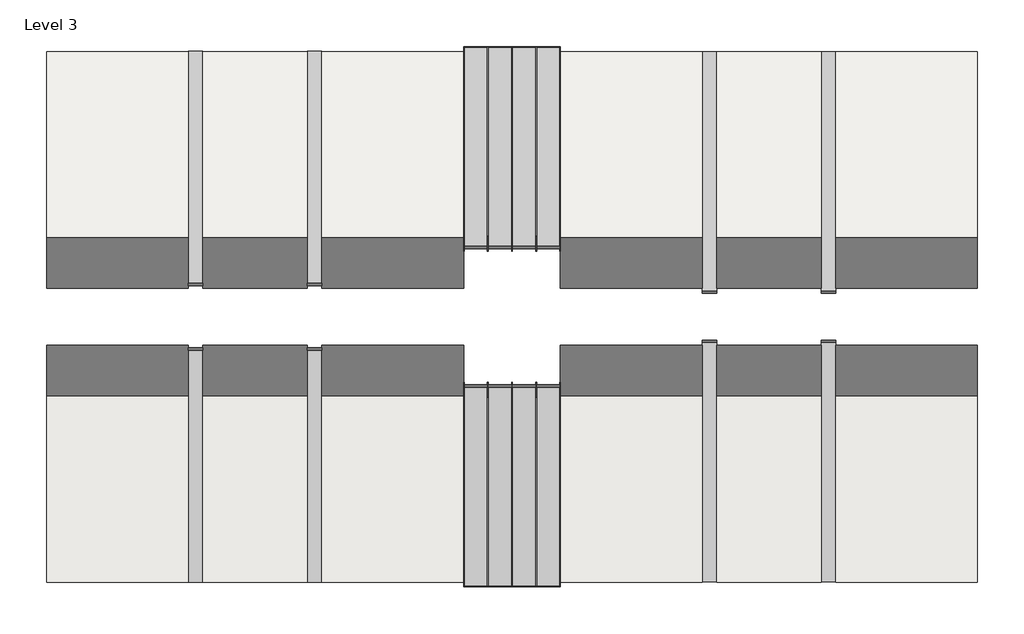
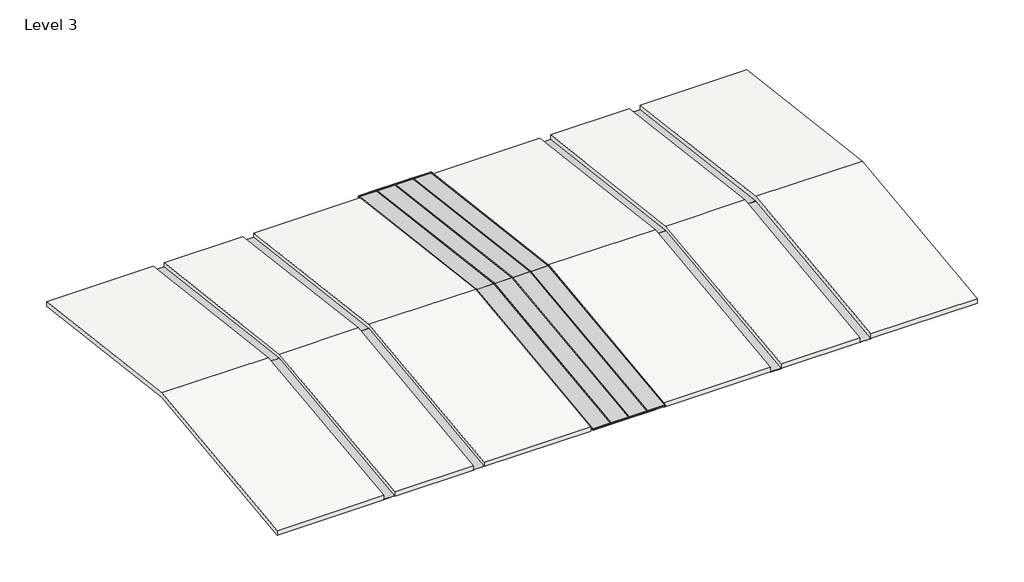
# One storey: 18 members, 16 plates, 6 roofs.
"""IFC4 building model written with IfcOpenShell, lengths in millimetres."""

from ifc_helpers import new_model, si_unit, frame, origin, place, context, project, spatial, polyline, outline, extrude, transform, mapped, element, save
from components import rectangular_mullion_50x150mm_aa47fe12, rectangular_mullion_50x150mm_e1845f1f, rectangular_mullion_50x150mm_9bf3cd82, rectangular_mullion_50x150mm_6b8186ba, system_panel_glazed_f909c4d5, system_panel_glazed_12509dcc, system_panel_glazed_23f30888

model = new_model("IFC4")

# Units and contexts
model_context = context("Model", 3, world=origin())
ifc_project = project(units=[si_unit("LENGTHUNIT", "METRE", prefix="MILLI")], contexts=[model_context])

# Site, building, storey
site = spatial("IfcSite", under=ifc_project)
building = spatial("IfcBuilding", under=site)
storey = spatial("IfcBuildingStorey", under=building, Name="Level 3", Elevation=11500.0)

# Members
placement = place(None, origin())
rectangular_mullion_50x150mm_shape = rectangular_mullion_50x150mm_aa47fe12(model_context)
element("IfcMember", 1, ObjectType="Rectangular Mullion : 50x150mm", at=placement, inside=storey, context=model_context, shape_type="MappedRepresentation", body=[
    mapped(rectangular_mullion_50x150mm_shape, transform((-49230.3056755, -36205.9199596, 10700.0), x_axis=(0.0, -0.9925461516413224, -0.12186934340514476), y_axis=(0.0, 0.12186934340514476, -0.9925461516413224), z_axis=(1.0, 0.0, 0.0))),
])
element("IfcMember", 2, ObjectType="Rectangular Mullion : 50x150mm", at=placement, inside=storey, context=model_context, shape_type="MappedRepresentation", body=[
    mapped(rectangular_mullion_50x150mm_shape, transform((-51230.3056755, -36205.9199596, 10700.0), x_axis=(0.0, -0.9925461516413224, -0.12186934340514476), y_axis=(0.0, 0.12186934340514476, -0.9925461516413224), z_axis=(1.0, 0.0, 0.0))),
])
element("IfcMember", 3, ObjectType="Rectangular Mullion : 50x150mm", at=placement, inside=storey, context=model_context, shape_type="MappedRepresentation", body=[
    mapped(rectangular_mullion_50x150mm_shape, transform((-51230.3056755, 8394.0800404, 10700.0), x_axis=(0.0, 0.9925461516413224, -0.12186934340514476), y_axis=(0.0, -0.12186934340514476, -0.9925461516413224), z_axis=(-1.0, 0.0, 0.0))),
])
element("IfcMember", 4, ObjectType="Rectangular Mullion : 50x150mm", at=placement, inside=storey, context=model_context, shape_type="MappedRepresentation", body=[
    mapped(rectangular_mullion_50x150mm_shape, transform((-53230.3056755, 8394.0800404, 10700.0), x_axis=(0.0, 0.9925461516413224, -0.12186934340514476), y_axis=(0.0, -0.12186934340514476, -0.9925461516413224), z_axis=(-1.0, 0.0, 0.0))),
])
rectangular_mullion_50x150mm_2_shape = rectangular_mullion_50x150mm_e1845f1f(model_context)
element("IfcMember", 5, ObjectType="Rectangular Mullion : 50x150mm", at=placement, inside=storey, context=model_context, shape_type="MappedRepresentation", body=[
    mapped(rectangular_mullion_50x150mm_2_shape, transform((-53230.3056755, -36205.9199596, 10700.0), x_axis=(0.0, -0.9925461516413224, -0.12186934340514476), y_axis=(0.0, 0.12186934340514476, -0.9925461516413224), z_axis=(1.0, 0.0, 0.0))),
])
element("IfcMember", 6, ObjectType="Rectangular Mullion : 50x150mm", at=placement, inside=storey, context=model_context, shape_type="MappedRepresentation", body=[
    mapped(rectangular_mullion_50x150mm_2_shape, transform((-49230.3056755, 8394.0800404, 10700.0), x_axis=(0.0, 0.9925461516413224, -0.12186934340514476), y_axis=(0.0, -0.12186934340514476, -0.9925461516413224), z_axis=(-1.0, 0.0, 0.0))),
])
element("IfcMember", 7, ObjectType="Rectangular Mullion : 50x150mm", at=placement, inside=storey, context=model_context, shape_type="MappedRepresentation", body=[
    mapped(rectangular_mullion_50x150mm_2_shape, transform((-47280.3056755, -36205.9199596, 10700.0), x_axis=(0.0, -0.9925461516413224, -0.12186934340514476), y_axis=(0.0, 0.12186934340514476, -0.9925461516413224), z_axis=(1.0, 0.0, 0.0))),
])
element("IfcMember", 8, ObjectType="Rectangular Mullion : 50x150mm", at=placement, inside=storey, context=model_context, shape_type="MappedRepresentation", body=[
    mapped(rectangular_mullion_50x150mm_2_shape, transform((-55180.3056755, 8394.0800404, 10700.0), x_axis=(0.0, 0.9925461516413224, -0.12186934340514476), y_axis=(0.0, -0.12186934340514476, -0.9925461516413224), z_axis=(-1.0, 0.0, 0.0))),
])
rectangular_mullion_50x150mm_3_shape = rectangular_mullion_50x150mm_9bf3cd82(model_context)
element("IfcMember", 9, ObjectType="Rectangular Mullion : 50x150mm", at=placement, inside=storey, context=model_context, shape_type="MappedRepresentation", body=[
    mapped(rectangular_mullion_50x150mm_3_shape, transform((-49230.3056755, -13905.9199596, 13438.0957081), x_axis=(1.0, 0.0, 0.0), y_axis=(0.0, 0.12186934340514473, -0.9925461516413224), z_axis=(0.0, 0.9925461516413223, 0.12186934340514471))),
])
element("IfcMember", 10, ObjectType="Rectangular Mullion : 50x150mm", at=placement, inside=storey, context=model_context, shape_type="MappedRepresentation", body=[
    mapped(rectangular_mullion_50x150mm_3_shape, transform((-51230.3056755, -13905.9199596, 13438.0957081), x_axis=(1.0, 0.0, 0.0), y_axis=(0.0, 0.12186934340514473, -0.9925461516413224), z_axis=(0.0, 0.9925461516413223, 0.12186934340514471))),
])
element("IfcMember", 11, ObjectType="Rectangular Mullion : 50x150mm", at=placement, inside=storey, context=model_context, shape_type="MappedRepresentation", body=[
    mapped(rectangular_mullion_50x150mm_3_shape, transform((-53230.3056755, -13905.9199596, 13438.0957081), x_axis=(1.0, 0.0, 0.0), y_axis=(0.0, 0.12186934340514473, -0.9925461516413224), z_axis=(0.0, 0.9925461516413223, 0.12186934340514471))),
])
element("IfcMember", 12, ObjectType="Rectangular Mullion : 50x150mm", at=placement, inside=storey, context=model_context, shape_type="MappedRepresentation", body=[
    mapped(rectangular_mullion_50x150mm_3_shape, transform((-53230.3056755, -13905.9199596, 13438.0957081), x_axis=(-1.0, 0.0, 0.0), y_axis=(0.0, -0.12186934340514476, -0.9925461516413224), z_axis=(0.0, -0.9925461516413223, 0.12186934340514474))),
])
element("IfcMember", 13, ObjectType="Rectangular Mullion : 50x150mm", at=placement, inside=storey, context=model_context, shape_type="MappedRepresentation", body=[
    mapped(rectangular_mullion_50x150mm_3_shape, transform((-51230.3056755, -13905.9199596, 13438.0957081), x_axis=(-1.0, 0.0, 0.0), y_axis=(0.0, -0.12186934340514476, -0.9925461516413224), z_axis=(0.0, -0.9925461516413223, 0.12186934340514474))),
])
element("IfcMember", 14, ObjectType="Rectangular Mullion : 50x150mm", at=placement, inside=storey, context=model_context, shape_type="MappedRepresentation", body=[
    mapped(rectangular_mullion_50x150mm_3_shape, transform((-49230.3056755, -13905.9199596, 13438.0957081), x_axis=(-1.0, 0.0, 0.0), y_axis=(0.0, -0.12186934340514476, -0.9925461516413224), z_axis=(0.0, -0.9925461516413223, 0.12186934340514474))),
])
rectangular_mullion_50x150mm_4_shape = rectangular_mullion_50x150mm_6b8186ba(model_context)
element("IfcMember", 15, ObjectType="Rectangular Mullion : 50x150mm", at=placement, inside=storey, context=model_context, shape_type="MappedRepresentation", body=[
    mapped(rectangular_mullion_50x150mm_4_shape, transform((-47230.3056755, -13905.9199596, 13438.0957081), x_axis=(1.0, 0.0, 0.0), y_axis=(0.0, 0.12186934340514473, -0.9925461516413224), z_axis=(0.0, 0.9925461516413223, 0.12186934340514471))),
])
element("IfcMember", 16, ObjectType="Rectangular Mullion : 50x150mm", at=placement, inside=storey, context=model_context, shape_type="MappedRepresentation", body=[
    mapped(rectangular_mullion_50x150mm_4_shape, transform((-55230.3056755, -13905.9199596, 13438.0957081), x_axis=(-1.0, 0.0, 0.0), y_axis=(0.0, -0.12186934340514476, -0.9925461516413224), z_axis=(0.0, -0.9925461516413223, 0.12186934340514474))),
])
element("IfcMember", 17, ObjectType="Rectangular Mullion : 50x150mm", at=placement, inside=storey, context=model_context, shape_type="MappedRepresentation", body=[
    mapped(rectangular_mullion_50x150mm_4_shape, transform((-47230.3056755, 8394.0800404, 10700.0), x_axis=(1.0, 0.0, 0.0), y_axis=(0.0, -0.12186934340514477, -0.9925461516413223), z_axis=(0.0, 0.9925461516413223, -0.12186934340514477))),
])
element("IfcMember", 18, ObjectType="Rectangular Mullion : 50x150mm", at=placement, inside=storey, context=model_context, shape_type="MappedRepresentation", body=[
    mapped(rectangular_mullion_50x150mm_4_shape, transform((-55230.3056755, -36205.9199596, 10700.0), x_axis=(-1.0, 0.0, 0.0), y_axis=(0.0, 0.12186934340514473, -0.9925461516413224), z_axis=(0.0, -0.9925461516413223, -0.12186934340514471))),
])

# Plates
system_panel_glazed_shape = system_panel_glazed_f909c4d5(model_context)
element("IfcPlate", 19, ObjectType="System Panel : Glazed", at=placement, inside=storey, context=model_context, shape_type="MappedRepresentation", body=[
    mapped(system_panel_glazed_shape, transform((-34935.2556755, -35805.9199596, 10300.0), x_axis=(1.0, 0.0, 0.0), y_axis=(0.0, 0.12186934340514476, -0.9925461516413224), z_axis=(0.0, 0.9925461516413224, 0.12186934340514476))),
])
element("IfcPlate", 20, ObjectType="System Panel : Glazed", at=placement, inside=storey, context=model_context, shape_type="MappedRepresentation", body=[
    mapped(system_panel_glazed_shape, transform((-34935.2556755, 7994.0800404, 10300.0), x_axis=(-1.0, 0.0, 0.0), y_axis=(0.0, -0.12186934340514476, -0.9925461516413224), z_axis=(0.0, -0.9925461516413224, 0.12186934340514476))),
])
element("IfcPlate", 21, ObjectType="System Panel : Glazed", at=placement, inside=storey, context=model_context, shape_type="MappedRepresentation", body=[
    mapped(system_panel_glazed_shape, transform((-25100.7705062, -35805.9199596, 10300.0), x_axis=(1.0, 0.0, 0.0), y_axis=(0.0, 0.12186934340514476, -0.9925461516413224), z_axis=(0.0, 0.9925461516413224, 0.12186934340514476))),
])
element("IfcPlate", 22, ObjectType="System Panel : Glazed", at=placement, inside=storey, context=model_context, shape_type="MappedRepresentation", body=[
    mapped(system_panel_glazed_shape, transform((-25100.7705062, 7994.0800404, 10300.0), x_axis=(-1.0, 0.0, 0.0), y_axis=(0.0, -0.12186934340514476, -0.9925461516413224), z_axis=(0.0, -0.9925461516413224, 0.12186934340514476))),
])
element("IfcPlate", 23, ObjectType="System Panel : Glazed", at=placement, inside=storey, context=model_context, shape_type="MappedRepresentation", body=[
    mapped(system_panel_glazed_shape, transform((-67525.3556755, -35805.9199596, 10300.0), x_axis=(-1.0, 0.0, 0.0), y_axis=(0.0, -0.12186934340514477, 0.9925461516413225), z_axis=(0.0, 0.9925461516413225, 0.12186934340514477))),
])
element("IfcPlate", 24, ObjectType="System Panel : Glazed", at=placement, inside=storey, context=model_context, shape_type="MappedRepresentation", body=[
    mapped(system_panel_glazed_shape, transform((-67525.3556755, 7994.0800404, 10300.0), x_axis=(1.0, 0.0, 0.0), y_axis=(0.0, 0.12186934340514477, 0.9925461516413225), z_axis=(0.0, -0.9925461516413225, 0.12186934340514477))),
])
element("IfcPlate", 25, ObjectType="System Panel : Glazed", at=placement, inside=storey, context=model_context, shape_type="MappedRepresentation", body=[
    mapped(system_panel_glazed_shape, transform((-77359.8408447, -35805.9199596, 10300.0), x_axis=(-1.0, 0.0, 0.0), y_axis=(0.0, -0.12186934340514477, 0.9925461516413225), z_axis=(0.0, 0.9925461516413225, 0.12186934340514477))),
])
element("IfcPlate", 26, ObjectType="System Panel : Glazed", at=placement, inside=storey, context=model_context, shape_type="MappedRepresentation", body=[
    mapped(system_panel_glazed_shape, transform((-77359.8408447, 7994.0800404, 10300.0), x_axis=(1.0, 0.0, 0.0), y_axis=(0.0, 0.12186934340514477, 0.9925461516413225), z_axis=(0.0, -0.9925461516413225, 0.12186934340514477))),
])
system_panel_glazed_2_shape = system_panel_glazed_12509dcc(model_context)
element("IfcPlate", 27, ObjectType="System Panel : Glazed", at=placement, inside=storey, context=model_context, shape_type="MappedRepresentation", body=[
    mapped(system_panel_glazed_2_shape, transform((-54217.8056755, -36156.292652, 10706.0934672), x_axis=(1.0, 0.0, 0.0), y_axis=(0.0, 0.12186934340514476, -0.9925461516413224), z_axis=(0.0, 0.9925461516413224, 0.12186934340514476))),
])
element("IfcPlate", 28, ObjectType="System Panel : Glazed", at=placement, inside=storey, context=model_context, shape_type="MappedRepresentation", body=[
    mapped(system_panel_glazed_2_shape, transform((-48242.8056755, 8344.4527328, 10706.0934672), x_axis=(-1.0, 0.0, 0.0), y_axis=(0.0, -0.12186934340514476, -0.9925461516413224), z_axis=(0.0, -0.9925461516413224, 0.12186934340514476))),
])
element("IfcPlate", 29, ObjectType="System Panel : Glazed", at=placement, inside=storey, context=model_context, shape_type="MappedRepresentation", body=[
    mapped(system_panel_glazed_2_shape, transform((-48242.8056755, -36156.292652, 10706.0934672), x_axis=(1.0, 0.0, 0.0), y_axis=(0.0, 0.12186934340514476, -0.9925461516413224), z_axis=(0.0, 0.9925461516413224, 0.12186934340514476))),
])
element("IfcPlate", 30, ObjectType="System Panel : Glazed", at=placement, inside=storey, context=model_context, shape_type="MappedRepresentation", body=[
    mapped(system_panel_glazed_2_shape, transform((-54217.8056755, 8344.4527328, 10706.0934672), x_axis=(-1.0, 0.0, 0.0), y_axis=(0.0, -0.12186934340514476, -0.9925461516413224), z_axis=(0.0, -0.9925461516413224, 0.12186934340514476))),
])
system_panel_glazed_3_shape = system_panel_glazed_23f30888(model_context)
element("IfcPlate", 31, ObjectType="System Panel : Glazed", at=placement, inside=storey, context=model_context, shape_type="MappedRepresentation", body=[
    mapped(system_panel_glazed_3_shape, transform((-50230.3056755, -36156.292652, 10706.0934672), x_axis=(1.0, 0.0, 0.0), y_axis=(0.0, 0.12186934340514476, -0.9925461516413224), z_axis=(0.0, 0.9925461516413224, 0.12186934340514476))),
])
element("IfcPlate", 32, ObjectType="System Panel : Glazed", at=placement, inside=storey, context=model_context, shape_type="MappedRepresentation", body=[
    mapped(system_panel_glazed_3_shape, transform((-52230.3056755, -36156.292652, 10706.0934672), x_axis=(1.0, 0.0, 0.0), y_axis=(0.0, 0.12186934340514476, -0.9925461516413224), z_axis=(0.0, 0.9925461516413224, 0.12186934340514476))),
])
element("IfcPlate", 33, ObjectType="System Panel : Glazed", at=placement, inside=storey, context=model_context, shape_type="MappedRepresentation", body=[
    mapped(system_panel_glazed_3_shape, transform((-52230.3056755, 8344.4527328, 10706.0934672), x_axis=(-1.0, 0.0, 0.0), y_axis=(0.0, -0.12186934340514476, -0.9925461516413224), z_axis=(0.0, -0.9925461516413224, 0.12186934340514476))),
])
element("IfcPlate", 34, ObjectType="System Panel : Glazed", at=placement, inside=storey, context=model_context, shape_type="MappedRepresentation", body=[
    mapped(system_panel_glazed_3_shape, transform((-50230.3056755, 8344.4527328, 10706.0934672), x_axis=(-1.0, 0.0, 0.0), y_axis=(0.0, -0.12186934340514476, -0.9925461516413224), z_axis=(0.0, -0.9925461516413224, 0.12186934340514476))),
])

# Roofs
element("IfcRoof", 35, ObjectType="Roof_Pitched-50SS-220Ins-20MPan-225Purl", at=placement, inside=storey, context=model_context, shape_type="SweptSolid", body=[
    extrude(outline(polyline([(-35805.9199596, 10818.8675601), (-13905.9199596, 13507.8494439), (7994.0800404, 10818.8675601), (7994.0800404, 10300.0), (-13905.9199596, 12988.9818838), (-35805.9199596, 10300.0), (-35805.9199596, 10818.8675601)])), frame((-24500.7705062, 0.0, 0.0), z_axis=(1.0, 0.0, 0.0), x_axis=(0.0, 1.0, 0.0)), (0.0, 0.0, 1.0), 11700.0),
])
element("IfcRoof", 36, ObjectType="Roof_Pitched-50SS-220Ins-20MPan-225Purl", at=placement, inside=storey, context=model_context, shape_type="SweptSolid", body=[
    extrude(outline(polyline([(-35805.9199596, 10818.8675601), (-13905.9199596, 13507.8494439), (7994.0800404, 10818.8675601), (7994.0800404, 10300.0), (-13905.9199596, 12988.9818838), (-35805.9199596, 10300.0), (-35805.9199596, 10818.8675601)])), frame((-34335.2556755, 0.0, 0.0), z_axis=(1.0, 0.0, 0.0), x_axis=(0.0, 1.0, 0.0)), (0.0, 0.0, 1.0), 8634.4851693),
])
element("IfcRoof", 37, ObjectType="Roof_Pitched-50SS-220Ins-20MPan-225Purl", at=placement, inside=storey, context=model_context, shape_type="SweptSolid", body=[
    extrude(outline(polyline([(-35805.9199596, 10818.8675601), (-13905.9199596, 13507.8494439), (7994.0800404, 10818.8675601), (7994.0800404, 10300.0), (-13905.9199596, 12988.9818838), (-35805.9199596, 10300.0), (-35805.9199596, 10818.8675601)])), frame((-47230.3056755, 0.0, 0.0), z_axis=(1.0, 0.0, 0.0), x_axis=(0.0, 1.0, 0.0)), (0.0, 0.0, 1.0), 11695.05),
])
element("IfcRoof", 38, ObjectType="Roof_Pitched-50SS-220Ins-20MPan-225Purl", at=placement, inside=storey, context=model_context, shape_type="SweptSolid", body=[
    extrude(outline(polyline([(-35805.9199596, 10818.8675601), (-13905.9199596, 13507.8494439), (7994.0800404, 10818.8675601), (7994.0800404, 10300.0), (-13905.9199596, 12988.9818838), (-35805.9199596, 10300.0), (-35805.9199596, 10818.8675601)])), frame((-89659.8408447, 0.0, 0.0), z_axis=(1.0, 0.0, 0.0), x_axis=(0.0, 1.0, 0.0)), (0.0, 0.0, 1.0), 11700.0),
])
element("IfcRoof", 39, ObjectType="Roof_Pitched-50SS-220Ins-20MPan-225Purl", at=placement, inside=storey, context=model_context, shape_type="SweptSolid", body=[
    extrude(outline(polyline([(-35805.9199596, 10818.8675601), (-13905.9199596, 13507.8494439), (7994.0800404, 10818.8675601), (7994.0800404, 10300.0), (-13905.9199596, 12988.9818838), (-35805.9199596, 10300.0), (-35805.9199596, 10818.8675601)])), frame((-76759.8408447, 0.0, 0.0), z_axis=(1.0, 0.0, 0.0), x_axis=(0.0, 1.0, 0.0)), (0.0, 0.0, 1.0), 8634.4851693),
])
element("IfcRoof", 40, ObjectType="Roof_Pitched-50SS-220Ins-20MPan-225Purl", at=placement, inside=storey, context=model_context, shape_type="SweptSolid", body=[
    extrude(outline(polyline([(-35805.9199596, 10818.8675601), (-13905.9199596, 13507.8494439), (7994.0800404, 10818.8675601), (7994.0800404, 10300.0), (-13905.9199596, 12988.9818838), (-35805.9199596, 10300.0), (-35805.9199596, 10818.8675601)])), frame((-66925.3556755, 0.0, 0.0), z_axis=(1.0, 0.0, 0.0), x_axis=(0.0, 1.0, 0.0)), (0.0, 0.0, 1.0), 11695.05),
])

save(model, "model.ifc")
